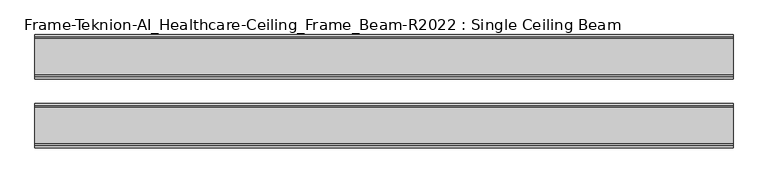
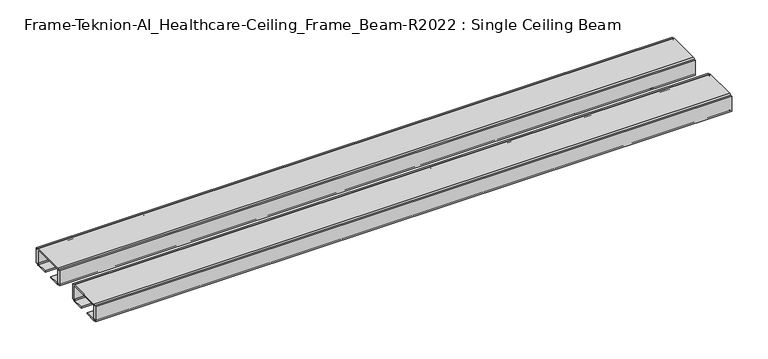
"""IFC4 building model written with IfcOpenShell, lengths in millimetres: furniture geometry, Frame-Teknion-AI_Healthcare-Ceiling_Frame_Beam-R2022 : Single Ceiling Beam."""

from ifc_helpers import new_model, si_unit, point, frame, frame_2d, origin, place, context, project, spatial, polyline, circle_curve, trimmed, segment, composite_curve, outline, extrude, source, transform, mapped, element, save


def frame_teknion_ai_healthcare_ceiling_frame_beam_r2022_single_e6044218(model_context):
    return source(origin(), model_context, "Body", "SweptSolid", [
        extrude(outline(composite_curve([segment(polyline([(82.1812471, 1573.5046), (79.0062502, 1573.5046), (79.0062502, 1574.6129989)]), True, "CONTINUOUS"), segment(trimmed(circle_curve(frame_2d((76.5932502, 1574.6129989)), 2.413), [point((79.0062502, 1574.6129989))], [point((76.5932502, 1572.199999))], False, "CARTESIAN"), True, "CONTINUOUS"), segment(polyline([(76.5932502, 1572.199999), (57.9437458, 1572.199999), (57.9437458, 1574.4859991), (75.4502513, 1574.4859991)]), True, "CONTINUOUS"), segment(trimmed(circle_curve(frame_2d((75.4502513, 1576.0099999)), 1.5240008), [point((75.4502513, 1574.4859991))], [point((76.9742521, 1576.0099999))], True, "CARTESIAN"), True, "CONTINUOUS"), segment(polyline([(76.9742521, 1576.0099999), (76.9742521, 1597.1520009)]), True, "CONTINUOUS"), segment(trimmed(circle_curve(frame_2d((75.9582531, 1597.1520009)), 1.015999), [point((76.9742521, 1597.1520009))], [point((75.9582531, 1598.168))], True, "CARTESIAN"), True, "CONTINUOUS"), segment(polyline([(75.9582531, 1598.168), (24.0542492, 1598.168)]), True, "CONTINUOUS"), segment(trimmed(circle_curve(frame_2d((24.0542492, 1597.1520009)), 1.015999), [point((24.0542492, 1598.168))], [point((23.0382502, 1597.1520009))], True, "CARTESIAN"), True, "CONTINUOUS"), segment(polyline([(23.0382502, 1597.1520009), (23.0382502, 1576.0099999)]), True, "CONTINUOUS"), segment(trimmed(circle_curve(frame_2d((24.562251, 1576.0099999)), 1.5240008), [point((23.0382502, 1576.0099999))], [point((24.562251, 1574.4859991))], True, "CARTESIAN"), True, "CONTINUOUS"), segment(polyline([(24.562251, 1574.4859991), (42.0687564, 1574.4859991), (42.0687564, 1572.199999), (23.4192521, 1572.199999)]), True, "CONTINUOUS"), segment(trimmed(circle_curve(frame_2d((23.4192521, 1574.6129989)), 2.413), [point((23.4192521, 1572.199999))], [point((21.0062521, 1574.6129989))], False, "CARTESIAN"), True, "CONTINUOUS"), segment(polyline([(21.0062521, 1574.6129989), (21.0062521, 1573.5046), (17.8312551, 1573.5046), (17.8312551, 1598.9045998), (21.0062521, 1598.9045998), (21.0062521, 1597.787)]), True, "CONTINUOUS"), segment(trimmed(circle_curve(frame_2d((23.4192521, 1597.787)), 2.413), [point((21.0062521, 1597.787))], [point((23.4192521, 1600.2))], False, "CARTESIAN"), True, "CONTINUOUS"), segment(polyline([(23.4192521, 1600.2), (76.5932502, 1600.2)]), True, "CONTINUOUS"), segment(trimmed(circle_curve(frame_2d((76.5932502, 1597.787)), 2.413), [point((76.5932502, 1600.2))], [point((79.0062502, 1597.787))], False, "CARTESIAN"), True, "CONTINUOUS"), segment(polyline([(79.0062502, 1597.787), (79.0062502, 1598.9045998), (82.1812471, 1598.9045998), (82.1812471, 1573.5046)]), True, "CONTINUOUS")], self_intersect=False)), frame((-506.1204, 0.0, 0.0), z_axis=(1.0, 0.0, 0.0), x_axis=(0.0, 1.0, 0.0)), (0.0, 0.0, 1.0), 1012.2408),
        extrude(outline(composite_curve([segment(polyline([(-82.1812471, 1573.5046), (-82.1812471, 1598.9045998), (-79.0062456, 1598.9045998), (-79.0062456, 1597.787)]), True, "CONTINUOUS"), segment(trimmed(circle_curve(frame_2d((-76.5932457, 1597.787)), 2.413), [point((-79.0062456, 1597.787))], [point((-76.5932457, 1600.2))], False, "CARTESIAN"), True, "CONTINUOUS"), segment(polyline([(-76.5932457, 1600.2), (-23.4192475, 1600.2)]), True, "CONTINUOUS"), segment(trimmed(circle_curve(frame_2d((-23.4192475, 1597.787)), 2.413), [point((-23.4192475, 1600.2))], [point((-21.0062476, 1597.787))], False, "CARTESIAN"), True, "CONTINUOUS"), segment(polyline([(-21.0062476, 1597.787), (-21.0062476, 1598.9045998), (-17.8312506, 1598.9045998), (-17.8312506, 1573.5046), (-21.0062476, 1573.5046), (-21.0062476, 1574.6129989)]), True, "CONTINUOUS"), segment(trimmed(circle_curve(frame_2d((-23.4192475, 1574.6129989)), 2.413), [point((-21.0062476, 1574.6129989))], [point((-23.4192475, 1572.199999))], False, "CARTESIAN"), True, "CONTINUOUS"), segment(polyline([(-23.4192475, 1572.199999), (-42.0687519, 1572.199999), (-42.0687519, 1574.4859991), (-24.5622464, 1574.4859991)]), True, "CONTINUOUS"), segment(trimmed(circle_curve(frame_2d((-24.5622464, 1576.0099999)), 1.5240008), [point((-24.5622464, 1574.4859991))], [point((-23.0382456, 1576.0099999))], True, "CARTESIAN"), True, "CONTINUOUS"), segment(polyline([(-23.0382456, 1576.0099999), (-23.0382456, 1597.1520009)]), True, "CONTINUOUS"), segment(trimmed(circle_curve(frame_2d((-24.0542446, 1597.1520009)), 1.015999), [point((-23.0382456, 1597.1520009))], [point((-24.0542446, 1598.168))], True, "CARTESIAN"), True, "CONTINUOUS"), segment(polyline([(-24.0542446, 1598.168), (-75.9582485, 1598.168)]), True, "CONTINUOUS"), segment(trimmed(circle_curve(frame_2d((-75.9582485, 1597.1520009)), 1.015999), [point((-75.9582485, 1598.168))], [point((-76.9742476, 1597.1520009))], True, "CARTESIAN"), True, "CONTINUOUS"), segment(polyline([(-76.9742476, 1597.1520009), (-76.9742476, 1576.0099999)]), True, "CONTINUOUS"), segment(trimmed(circle_curve(frame_2d((-75.4502468, 1576.0099999)), 1.5240008), [point((-76.9742476, 1576.0099999))], [point((-75.4502468, 1574.4859991))], True, "CARTESIAN"), True, "CONTINUOUS"), segment(polyline([(-75.4502468, 1574.4859991), (-57.9437413, 1574.4859991), (-57.9437413, 1572.199999), (-76.5932457, 1572.199999)]), True, "CONTINUOUS"), segment(trimmed(circle_curve(frame_2d((-76.5932457, 1574.6129989)), 2.413), [point((-76.5932457, 1572.199999))], [point((-79.0062456, 1574.6129989))], False, "CARTESIAN"), True, "CONTINUOUS"), segment(polyline([(-79.0062456, 1574.6129989), (-79.0062456, 1573.5046), (-82.1812471, 1573.5046)]), True, "CONTINUOUS")], self_intersect=False)), frame((-506.1204, 0.0, 0.0), z_axis=(1.0, 0.0, 0.0), x_axis=(0.0, 1.0, 0.0)), (0.0, 0.0, 1.0), 1012.2408),
    ])


if __name__ == "__main__":
    model = new_model("IFC4")
    model_context = context("Model", 3, world=origin())
    ifc_project = project(units=[si_unit("LENGTHUNIT", "METRE", prefix="MILLI")], contexts=[model_context])
    site = spatial("IfcSite", under=ifc_project)
    building = spatial("IfcBuilding", under=site)
    placement = place(None, origin())
    frame_teknion_ai_healthcare_ceiling_frame_beam_r2022_single_shape = frame_teknion_ai_healthcare_ceiling_frame_beam_r2022_single_e6044218(model_context)
    element("IfcFurniture", 1, ObjectType="Frame-Teknion-AI_Healthcare-Ceiling_Frame_Beam-R2022 : Single Ceiling Beam", at=placement, inside=building, context=model_context, shape_type="MappedRepresentation", body=[
        mapped(frame_teknion_ai_healthcare_ceiling_frame_beam_r2022_single_shape, transform((0.0, 0.0, 0.0), x_axis=(1.0, 0.0, 0.0), y_axis=(0.0, 1.0, 0.0), z_axis=(0.0, 0.0, 1.0))),
    ])
    save(model, "model.ifc")
